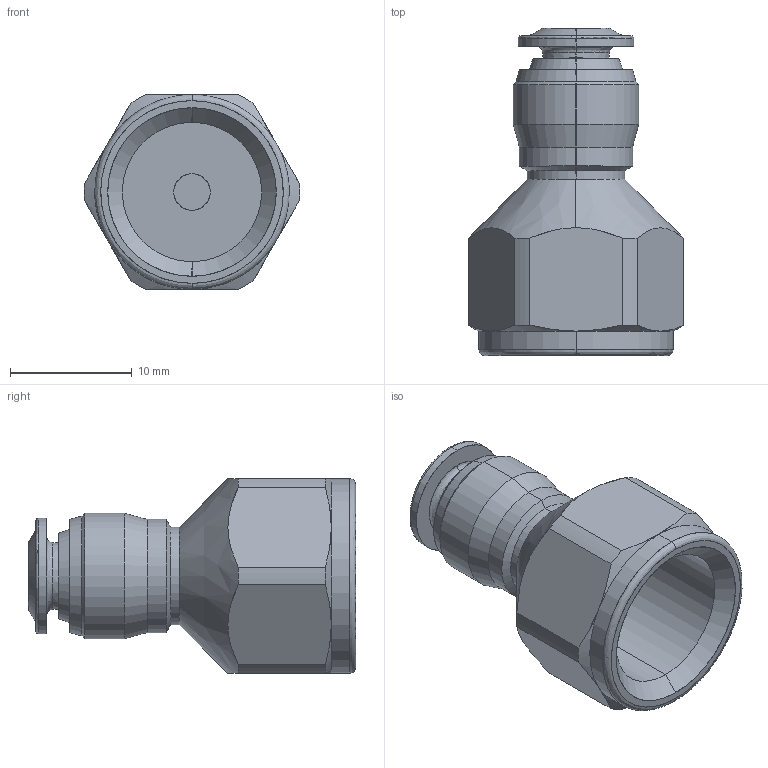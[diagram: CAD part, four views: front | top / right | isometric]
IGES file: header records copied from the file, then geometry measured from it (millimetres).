
Start section: SolidWorks IGES file using analytic representation for surfaces
Global section: file name: K:\Disegni Esecutivi\Serie 57000\ASSIEMI_57000\57030\ASSIEMI_PIENI_57030\5703000009.IGS; native system: SolidWorks 2007; preprocessor: SolidWorks 2007; author: cad02; date: 080201.143418; units: millimetre
Bounding box: 17.69 x 26.9 x 16 mm (x, y, z)
Surface area: 1939.6 mm2 (no closed solid volume)
Topology: 0 solids, 0 shells, 77 faces, 996 edges, 996 vertices
Faces by surface type: revolution 50, bspline 27
